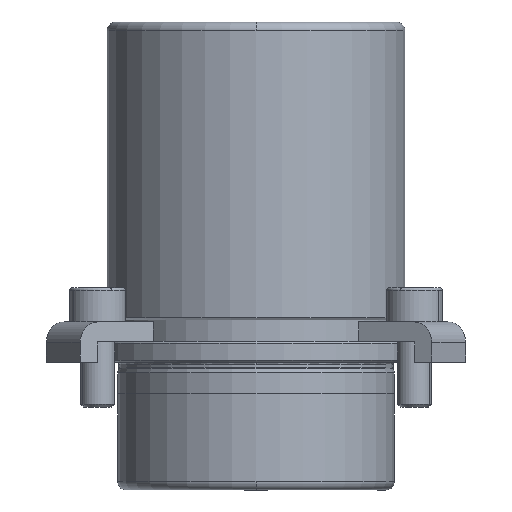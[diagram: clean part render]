
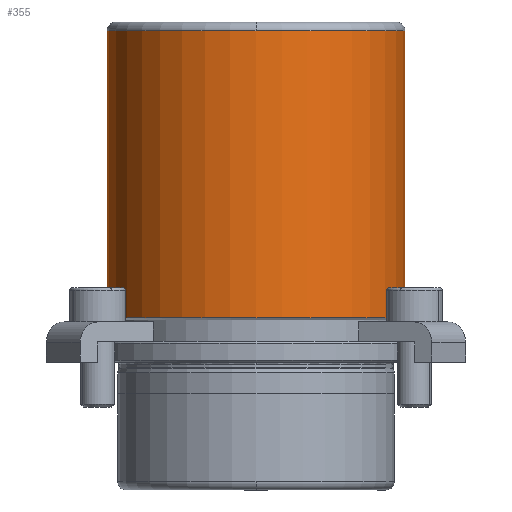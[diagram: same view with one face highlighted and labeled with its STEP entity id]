
A CAD part, front view. The second image highlights one B-rep face of the part: STEP entity #355.
In plain terms, the highlighted cylindrical face has radius 35 mm (diameter 70 mm), a partial arc.
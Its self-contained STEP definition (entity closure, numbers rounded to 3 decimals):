
#269=CARTESIAN_POINT('',(0.0,-35.,78.));
#270=VERTEX_POINT('',#269);
#296=CARTESIAN_POINT('',(-35.0,0.,78.0));
#297=VERTEX_POINT('',#296);
#305=CARTESIAN_POINT('',(0.0,0.,78.0));
#306=DIRECTION('',(0.0,0.0,1.0));
#307=DIRECTION('',(1.0,0.0,0.0));
#308=AXIS2_PLACEMENT_3D('',#305,#306,#307);
#309=CIRCLE('',#308,35.0);
#310=EDGE_CURVE('',#297,#270,#309,.T.);
#315=CARTESIAN_POINT('',(0.0,0.,44.25));
#316=DIRECTION('',(0.0,0.,1.0));
#317=DIRECTION('',(1.0,0.0,0.0));
#318=AXIS2_PLACEMENT_3D('',#315,#316,#317);
#319=CYLINDRICAL_SURFACE('',#318,35.0);
#320=CARTESIAN_POINT('',(35.0,0.,78.0));
#321=VERTEX_POINT('',#320);
#322=CARTESIAN_POINT('',(35.0,0.,10.5));
#323=VERTEX_POINT('',#322);
#324=CARTESIAN_POINT('',(35.0,0.,78.0));
#325=DIRECTION('',(0.0,0.0,-1.0));
#326=VECTOR('',#325,67.5);
#327=LINE('',#324,#326);
#328=EDGE_CURVE('',#321,#323,#327,.T.);
#329=ORIENTED_EDGE('',*,*,#328,.F.);
#330=CARTESIAN_POINT('',(0.0,0.,78.0));
#331=DIRECTION('',(0.0,0.0,1.0));
#332=DIRECTION('',(1.0,0.0,0.0));
#333=AXIS2_PLACEMENT_3D('',#330,#331,#332);
#334=CIRCLE('',#333,35.0);
#335=EDGE_CURVE('',#270,#321,#334,.T.);
#336=ORIENTED_EDGE('',*,*,#335,.F.);
#337=ORIENTED_EDGE('',*,*,#310,.F.);
#338=CARTESIAN_POINT('',(-35.0,0.,10.5));
#339=VERTEX_POINT('',#338);
#340=CARTESIAN_POINT('',(-35.0,0.,78.0));
#341=DIRECTION('',(0.0,0.0,-1.0));
#342=VECTOR('',#341,67.5);
#343=LINE('',#340,#342);
#344=EDGE_CURVE('',#297,#339,#343,.T.);
#345=ORIENTED_EDGE('',*,*,#344,.T.);
#346=CARTESIAN_POINT('',(0.0,0.,10.5));
#347=DIRECTION('',(0.0,0.0,1.0));
#348=DIRECTION('',(1.0,0.0,0.0));
#349=AXIS2_PLACEMENT_3D('',#346,#347,#348);
#350=CIRCLE('',#349,35.0);
#351=EDGE_CURVE('',#339,#323,#350,.T.);
#352=ORIENTED_EDGE('',*,*,#351,.T.);
#353=EDGE_LOOP('',(#329,#336,#337,#345,#352));
#354=FACE_OUTER_BOUND('',#353,.T.);
#355=ADVANCED_FACE('',(#354),#319,.T.);
